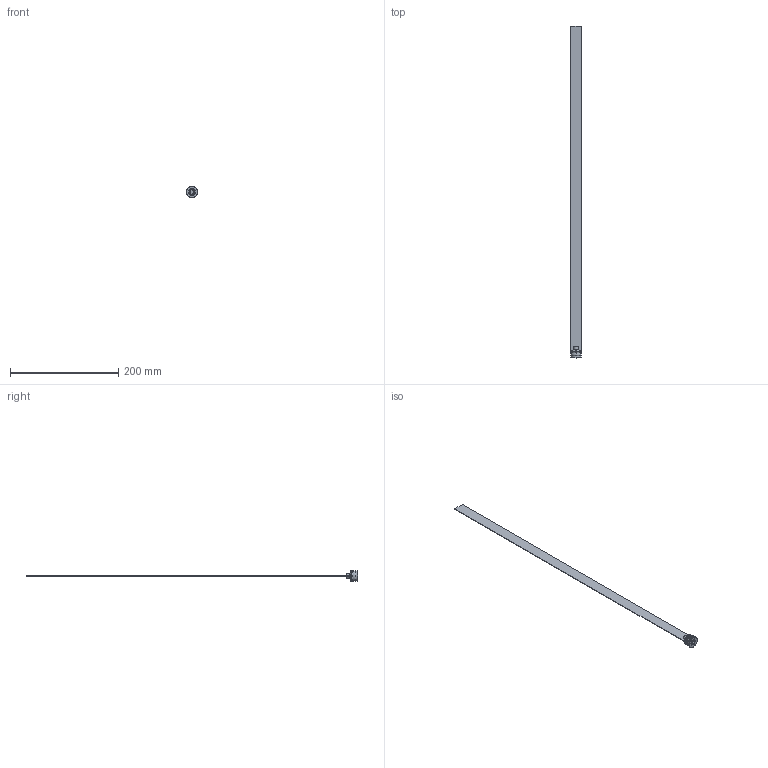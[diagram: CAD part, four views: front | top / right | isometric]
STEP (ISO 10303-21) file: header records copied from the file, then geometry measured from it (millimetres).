
FILE_DESCRIPTION (( 'STEP AP203' ), '1' );
FILE_NAME ('RL-20Fx600.STEP', '2015-12-02T15:14:09', ( 'Balzi' ), ( '' ), 'SwSTEP 2.0', 'SolidWorks 2015', '' );
FILE_SCHEMA (( 'CONFIG_CONTROL_DESIGN' ));
Length unit declared in the file: millimetre
Products named in the file (1): RL-20Fx600
Bounding box: 21.5 x 614 x 21.5 mm (x, y, z)
Volume: 16381.7 mm3; surface area: 27245.8 mm2
Topology: 1 solids, 1 shells, 75 faces, 177 edges, 109 vertices
Faces by surface type: plane 31, cone 19, cylinder 17, torus 8
Entity records: 2245 total; most frequent: CARTESIAN_POINT 412, DIRECTION 386, ORIENTED_EDGE 354, EDGE_CURVE 177, AXIS2_PLACEMENT_3D 147, VERTEX_POINT 109, VECTOR 92, LINE 92
